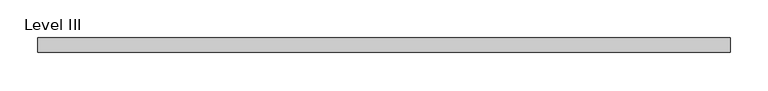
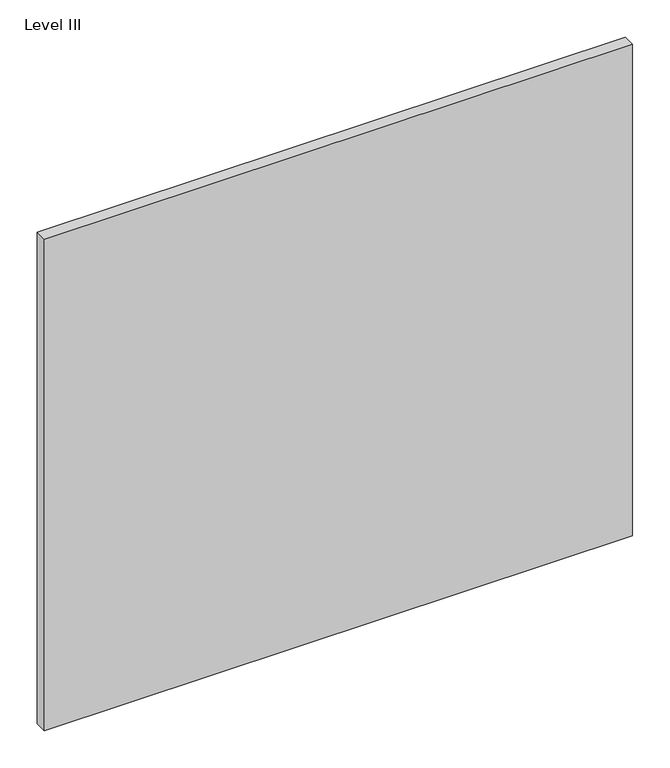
"""IFC4 building model written with IfcOpenShell, lengths in millimetres: proxy geometry, Panel-Fascia-Teknion-Altos-Standard : Level III."""

from ifc_helpers import new_model, si_unit, frame, origin, place, context, project, spatial, polyline, outline, extrude, source, transform, mapped, element, save


def level_iii_57fc346d(model_context):
    return source(origin(), model_context, "Body", "SweptSolid", [
        extrude(outline(polyline([(455.6125, -9.525), (-455.6125, -9.525), (-455.6125, 9.525), (455.6125, 9.525), (455.6125, -9.525)])), frame((0.0, 0.0, 3.175), z_axis=(0.0, 0.0, 1.0), x_axis=(1.0, 0.0, 0.0)), (0.0, 0.0, 1.0), 804.418),
    ])


if __name__ == "__main__":
    model = new_model("IFC4")
    model_context = context("Model", 3, world=origin())
    ifc_project = project(units=[si_unit("LENGTHUNIT", "METRE", prefix="MILLI")], contexts=[model_context])
    site = spatial("IfcSite", under=ifc_project)
    building = spatial("IfcBuilding", under=site)
    placement = place(None, origin())
    level_iii_shape = level_iii_57fc346d(model_context)
    element("IfcBuildingElementProxy", 1, Name="Panel-Fascia-Teknion-Altos-Standard : Level III", ObjectType="Panel-Fascia-Teknion-Altos-Standard : Level III", at=placement, inside=building, context=model_context, shape_type="MappedRepresentation", body=[
        mapped(level_iii_shape, transform((0.0, 0.0, 0.0), x_axis=(1.0, 0.0, 0.0), y_axis=(0.0, 1.0, 0.0), z_axis=(0.0, 0.0, 1.0))),
    ])
    save(model, "model.ifc")
